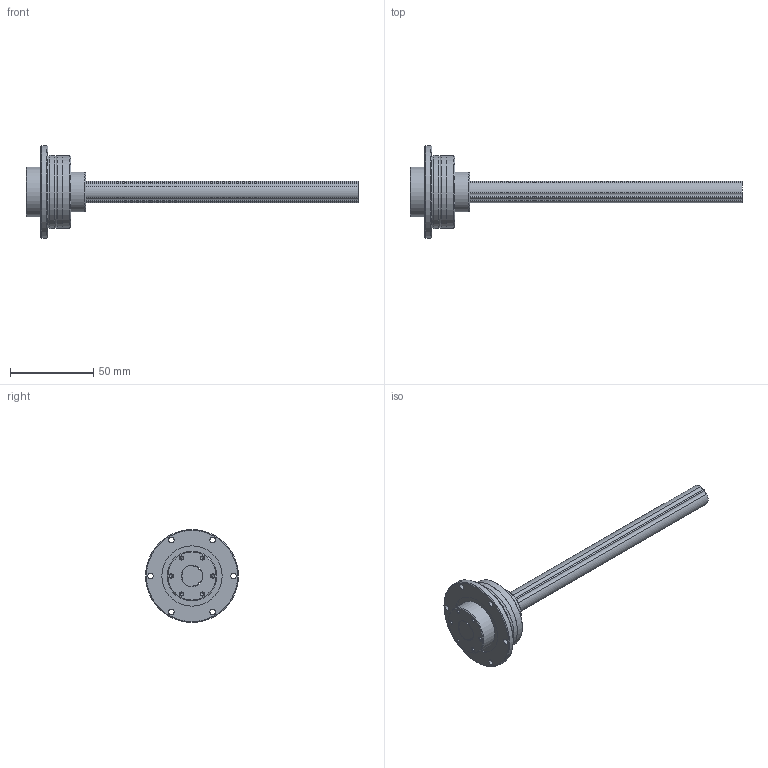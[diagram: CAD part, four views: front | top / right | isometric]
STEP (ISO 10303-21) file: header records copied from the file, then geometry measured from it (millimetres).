
FILE_DESCRIPTION(/* description */ ('STEP AP214'),/* implementation_level */ '2;1');
FILE_NAME(/* name */ 'LTR13A+200L(0_0)',/* time_stamp */ '2024-09-04T12:30:26+02:00',/* author */ ('License CC BY-ND 4.0'),/* organization */ ('CADENAS'),/* preprocessor_version */ 'ST-DEVELOPER v19.3',/* originating_system */ 'PARTsolutions',/* authorisation */ ' ');
FILE_SCHEMA (('AUTOMOTIVE_DESIGN {1 0 10303 214 3 1 1}'));
Length unit declared in the file: millimetre
Products named in the file (3): LTR13A+200L(0,0); LTR 13A200 LTRA Shaft; LTR 13A LTRA ACyl
Assembly tree (3 placements, depth 2):
  LTR13A+200L(0,0)
    LTR 13A200 LTRA Shaft
    LTR 13A LTRA ACyl  x2
Bounding box: 200 x 56 x 56 mm (x, y, z)
Volume: 95503.4 mm3; surface area: 31083.9 mm2
Topology: 3 solids, 3 shells, 122 faces, 286 edges, 184 vertices
Faces by surface type: cylinder 60, cone 34, plane 20, torus 8
Full cylindrical faces by diameter (mm): 1 x2, 2.013 x12, 3.4 x12, 13 x2, 24 x2, 30 x2, 33 x2, 36.364 x2, 39.6 x2, 43.5 x2, 43.6 x2, 44 x4, 56 x2
Entity records: 1726 total; most frequent: DIRECTION 322, CARTESIAN_POINT 268, ORIENTED_EDGE 192, AXIS2_PLACEMENT_3D 155, FACE_BOUND 140, EDGE_LOOP 134, EDGE_CURVE 96, VERTEX_POINT 90
